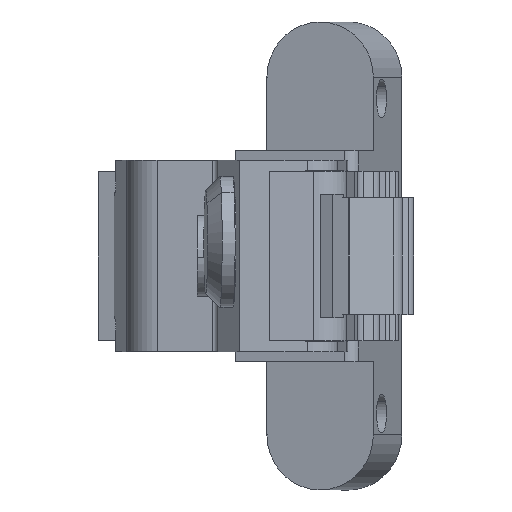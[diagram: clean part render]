
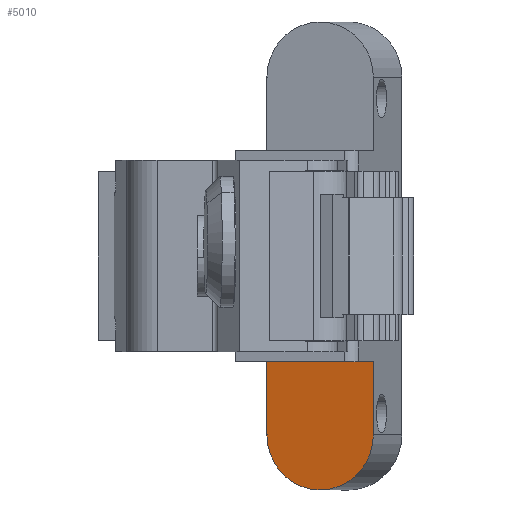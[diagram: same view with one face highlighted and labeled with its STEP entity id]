
A CAD part, left-side view. The second image highlights one B-rep face of the part: STEP entity #5010.
In plain terms, the highlighted planar face has unit normal (-0.965, 0.262, 0).
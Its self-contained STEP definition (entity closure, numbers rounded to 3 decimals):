
#276 = FACE_OUTER_BOUND ( 'NONE', #2756, .T. ) ;
#374 = LINE ( 'NONE', #5178, #5159 ) ;
#557 = VERTEX_POINT ( 'NONE', #3239 ) ;
#574 = ORIENTED_EDGE ( 'NONE', *, *, #3170, .F. ) ;
#598 = VERTEX_POINT ( 'NONE', #683 ) ;
#683 = CARTESIAN_POINT ( 'NONE',  ( 9.428, -2.114, -9.4 ) ) ;
#811 = VERTEX_POINT ( 'NONE', #6351 ) ;
#1174 = LINE ( 'NONE', #6342, #6619 ) ;
#1487 = AXIS2_PLACEMENT_3D ( 'NONE', #5108, #2954, #2302 ) ;
#1634 = AXIS2_PLACEMENT_3D ( 'NONE', #4379, #3400, #6048 ) ;
#1808 = DIRECTION ( 'NONE',  ( 0., 0., 1. ) ) ;
#1889 = ORIENTED_EDGE ( 'NONE', *, *, #3942, .F. ) ;
#2075 = CIRCLE ( 'NONE', #1634, 4.9 ) ;
#2302 = DIRECTION ( 'NONE',  ( 0., 0., 1. ) ) ;
#2336 = EDGE_CURVE ( 'NONE', #557, #598, #2789, .T. ) ;
#2621 = DIRECTION ( 'NONE',  ( 0., 0., -1. ) ) ;
#2756 = EDGE_LOOP ( 'NONE', ( #4674, #574, #1889, #6868 ) ) ;
#2789 = LINE ( 'NONE', #6583, #3374 ) ;
#2919 = PLANE ( 'NONE',  #1487 ) ;
#2954 = DIRECTION ( 'NONE',  ( -0.965, 0.262, 0. ) ) ;
#3110 = DIRECTION ( 'NONE',  ( 0.262, 0.965, 0. ) ) ;
#3170 = EDGE_CURVE ( 'NONE', #5109, #557, #2075, .T. ) ;
#3239 = CARTESIAN_POINT ( 'NONE',  ( 9.428, -2.114, -15.9 ) ) ;
#3374 = VECTOR ( 'NONE', #1808, 1000. ) ;
#3400 = DIRECTION ( 'NONE',  ( 0.965, -0.262, 0. ) ) ;
#3532 = CARTESIAN_POINT ( 'NONE',  ( 6.86, -11.571, -15.9 ) ) ;
#3942 = EDGE_CURVE ( 'NONE', #811, #5109, #1174, .T. ) ;
#4379 = CARTESIAN_POINT ( 'NONE',  ( 8.144, -6.843, -15.9 ) ) ;
#4674 = ORIENTED_EDGE ( 'NONE', *, *, #2336, .F. ) ;
#5010 = ADVANCED_FACE ( 'NONE', ( #276 ), #2919, .T. ) ;
#5022 = EDGE_CURVE ( 'NONE', #811, #598, #374, .T. ) ;
#5108 = CARTESIAN_POINT ( 'NONE',  ( 8.144, -6.843, -15.9 ) ) ;
#5109 = VERTEX_POINT ( 'NONE', #3532 ) ;
#5159 = VECTOR ( 'NONE', #3110, 1000. ) ;
#5178 = CARTESIAN_POINT ( 'NONE',  ( 8.144, -6.843, -9.4 ) ) ;
#6048 = DIRECTION ( 'NONE',  ( 0., 0., 1. ) ) ;
#6342 = CARTESIAN_POINT ( 'NONE',  ( 6.86, -11.571, 15.9 ) ) ;
#6351 = CARTESIAN_POINT ( 'NONE',  ( 6.86, -11.571, -9.4 ) ) ;
#6583 = CARTESIAN_POINT ( 'NONE',  ( 9.428, -2.114, 15.9 ) ) ;
#6619 = VECTOR ( 'NONE', #2621, 1000. ) ;
#6868 = ORIENTED_EDGE ( 'NONE', *, *, #5022, .T. ) ;
